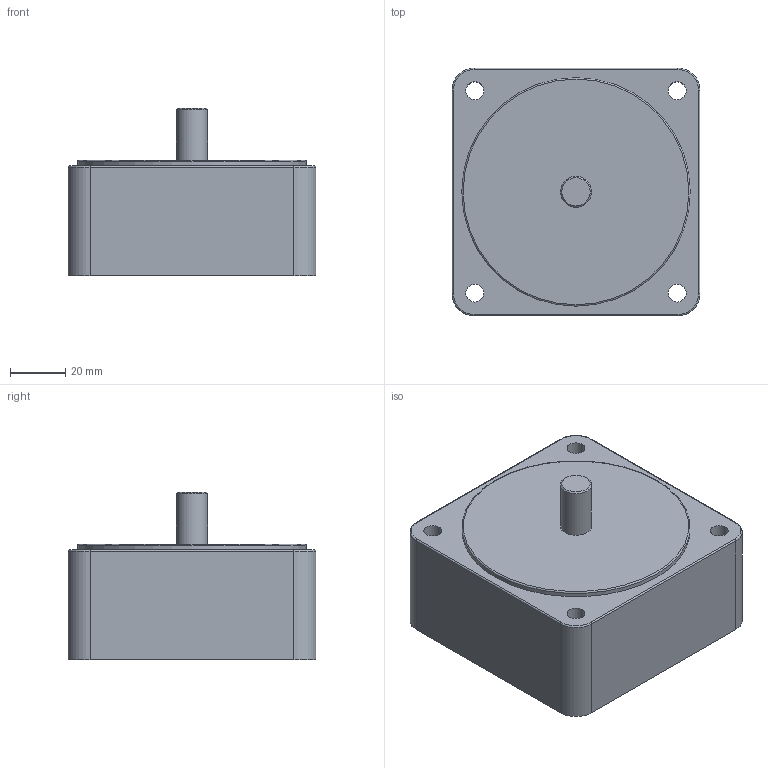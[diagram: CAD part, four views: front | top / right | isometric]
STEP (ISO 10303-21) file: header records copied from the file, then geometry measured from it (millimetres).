
FILE_DESCRIPTION((''),'2;1');
FILE_NAME('E:\2공장-도면\3D\표준형 3D(민규)\step file\감속기\K9P10BX.stp','2014-11-21T17:49:45',('AHN'),(''),'Autodesk Inventor 2012','Autodesk Inventor 2012','');
FILE_SCHEMA(('CONFIG_CONTROL_DESIGN'));
Length unit declared in the file: millimetre
Products named in the file (1): K9P10BX
Bounding box: 90 x 90 x 61 mm (x, y, z)
Volume: 329183.1 mm3; surface area: 33997.3 mm2
Topology: 1 solids, 1 shells, 28 faces, 62 edges, 38 vertices
Faces by surface type: cylinder 14, plane 8, torus 5, cone 1
Full cylindrical faces by diameter (mm): 6.5 x4, 11.3 x1, 83 x1
Entity records: 782 total; most frequent: DIRECTION 146, CARTESIAN_POINT 121, ORIENTED_EDGE 108, AXIS2_PLACEMENT_3D 63, EDGE_CURVE 54, EDGE_LOOP 46, VERTEX_POINT 38, CIRCLE 34
